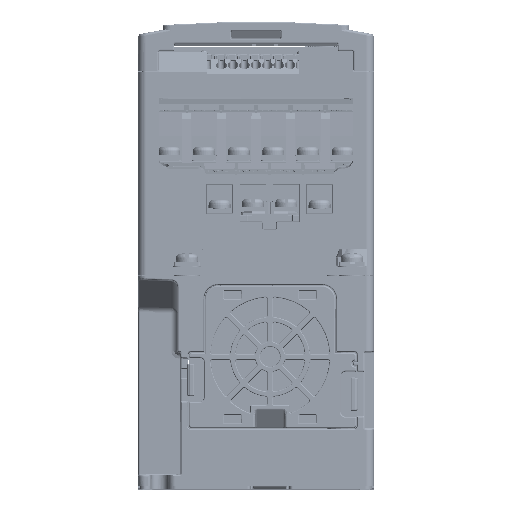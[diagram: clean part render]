
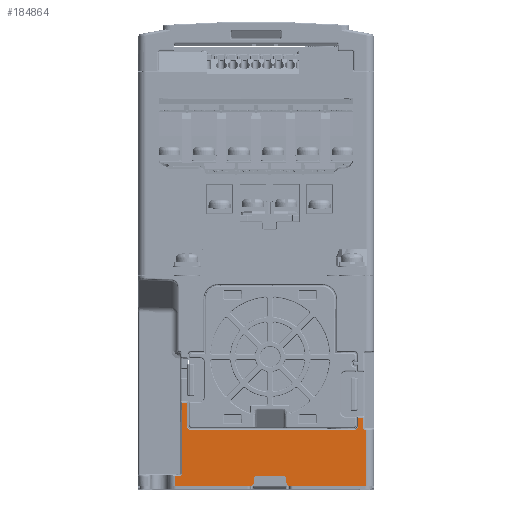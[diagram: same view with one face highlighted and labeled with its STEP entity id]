
A CAD part, top view. The second image highlights one B-rep face of the part: STEP entity #184864.
In plain terms, the highlighted planar face has unit normal (0, 0, 1).
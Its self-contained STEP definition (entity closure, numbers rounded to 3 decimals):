
#171471=CARTESIAN_POINT('',(-1.7,-52.4,71.));
#171472=DIRECTION('',(0.,0.,-1.));
#171473=DIRECTION('',(1.,0.,0.));
#171474=AXIS2_PLACEMENT_3D('',#171471,#171472,#171473);
#171476=DIRECTION('',(-1.,0.,0.));
#171477=VECTOR('',#171476,23.115);
#171478=CARTESIAN_POINT('',(-1.7,-53.4,71.));
#171479=LINE('',#171478,#171477);
#171480=CARTESIAN_POINT('',(-23.3,-49.588,71.));
#171481=DIRECTION('',(0.,0.,1.));
#171482=DIRECTION('',(0.017,-1.,0.));
#171483=AXIS2_PLACEMENT_3D('',#171480,#171481,#171482);
#171485=CARTESIAN_POINT('',(-21.174,-35.024,
71.));
#171486=CARTESIAN_POINT('',(-21.174,-35.165,
71.));
#171487=CARTESIAN_POINT('',(-21.13,-35.432,
71.));
#171488=CARTESIAN_POINT('',(-20.942,-35.802,
71.));
#171489=CARTESIAN_POINT('',(-20.652,-36.092,
71.));
#171490=CARTESIAN_POINT('',(-20.282,-36.28,
71.));
#171491=CARTESIAN_POINT('',(-20.015,-36.324,
71.));
#171492=CARTESIAN_POINT('',(-19.874,-36.324,
71.));
#171494=CARTESIAN_POINT('',(29.974,-36.324,
71.));
#171495=CARTESIAN_POINT('',(30.115,-36.324,
71.));
#171496=CARTESIAN_POINT('',(30.382,-36.28,
71.));
#171497=CARTESIAN_POINT('',(30.752,-36.092,
71.));
#171498=CARTESIAN_POINT('',(31.042,-35.802,
71.));
#171499=CARTESIAN_POINT('',(31.23,-35.432,
71.));
#171500=CARTESIAN_POINT('',(31.274,-35.165,
71.));
#171501=CARTESIAN_POINT('',(31.274,-35.024,
71.));
#171503=DIRECTION('',(1.,-0.017,0.));
#171504=VECTOR('',#171503,1.526);
#171505=CARTESIAN_POINT('',(31.274,-32.507,71.));
#171506=LINE('',#171505,#171504);
#171507=CARTESIAN_POINT('',(32.8,-35.644,71.));
#171508=CARTESIAN_POINT('',(32.8,-35.723,71.));
#171509=CARTESIAN_POINT('',(32.828,-35.87,
71.));
#171510=CARTESIAN_POINT('',(32.962,-36.079,
71.));
#171511=CARTESIAN_POINT('',(33.169,-36.214,
71.));
#171512=CARTESIAN_POINT('',(33.312,-36.244,
71.));
#171513=CARTESIAN_POINT('',(33.391,-36.245,
71.));
#171515=DIRECTION('',(-1.,0.,0.));
#171516=VECTOR('',#171515,23.2);
#171517=CARTESIAN_POINT('',(33.5,-53.4,71.));
#171518=LINE('',#171517,#171516);
#171519=CARTESIAN_POINT('',(10.3,-52.4,71.));
#171520=DIRECTION('',(0.,0.,-1.));
#171521=DIRECTION('',(0.,-1.,0.));
#171522=AXIS2_PLACEMENT_3D('',#171519,#171520,#171521);
#171524=CARTESIAN_POINT('',(8.3,-51.4,71.));
#171525=DIRECTION('',(0.,0.,1.));
#171526=DIRECTION('',(1.,0.,0.));
#171527=AXIS2_PLACEMENT_3D('',#171524,#171525,#171526);
#171529=CARTESIAN_POINT('',(0.3,-51.4,71.));
#171530=DIRECTION('',(0.,0.,1.));
#171531=DIRECTION('',(0.,1.,0.));
#171532=AXIS2_PLACEMENT_3D('',#171529,#171530,#171531);
#171534=DIRECTION('',(0.,-1.,0.));
#171535=VECTOR('',#171534,1.);
#171536=CARTESIAN_POINT('',(-0.7,-51.4,71.));
#171537=LINE('',#171536,#171535);
#171558=DIRECTION('',(1.,0.,0.));
#171559=VECTOR('',#171558,8.);
#171560=CARTESIAN_POINT('',(0.3,-50.4,71.));
#171561=LINE('',#171560,#171559);
#171570=DIRECTION('',(0.,-1.,0.));
#171571=VECTOR('',#171570,1.);
#171572=CARTESIAN_POINT('',(9.3,-51.4,71.));
#171573=LINE('',#171572,#171571);
#171737=DIRECTION('',(0.,1.,0.));
#171738=VECTOR('',#171737,17.154);
#171739=CARTESIAN_POINT('',(33.5,-53.4,71.));
#171740=LINE('',#171739,#171738);
#171755=DIRECTION('',(-1.,0.008,0.));
#171756=VECTOR('',#171755,0.109);
#171757=CARTESIAN_POINT('',(33.5,-36.246,
71.));
#171758=LINE('',#171757,#171756);
#172088=DIRECTION('',(0.,-1.,0.));
#172089=VECTOR('',#172088,2.517);
#172090=CARTESIAN_POINT('',(31.274,-32.507,71.));
#172091=LINE('',#172090,#172089);
#172126=DIRECTION('',(0.,1.,0.));
#172127=VECTOR('',#172126,3.11);
#172128=CARTESIAN_POINT('',(32.8,-35.644,71.));
#172129=LINE('',#172128,#172127);
#173561=DIRECTION('',(0.,-1.,0.));
#173562=VECTOR('',#173561,2.986);
#173563=CARTESIAN_POINT('',(-24.815,-50.414,71.));
#173564=LINE('',#173563,#173562);
#174181=DIRECTION('',(-1.,-0.017,0.));
#174182=VECTOR('',#174181,1.326);
#174183=CARTESIAN_POINT('',(-21.174,-27.951,71.));
#174184=LINE('',#174183,#174182);
#174189=DIRECTION('',(0.,1.,0.));
#174190=VECTOR('',#174189,7.073);
#174191=CARTESIAN_POINT('',(-21.174,-35.024,
71.));
#174192=LINE('',#174191,#174190);
#174211=DIRECTION('',(-1.,0.,0.));
#174212=VECTOR('',#174211,49.848);
#174213=CARTESIAN_POINT('',(29.974,-36.324,
71.));
#174214=LINE('',#174213,#174212);
#174237=DIRECTION('',(0.,-1.,0.));
#174238=VECTOR('',#174237,21.614);
#174239=CARTESIAN_POINT('',(-22.5,-27.974,
71.));
#174240=LINE('',#174239,#174238);
#174260=DIRECTION('',(-1.,-0.017,0.));
#174261=VECTOR('',#174260,1.529);
#174262=CARTESIAN_POINT('',(-23.286,-50.388,71.));
#174263=LINE('',#174262,#174261);
#180536=CARTESIAN_POINT('',(-24.815,-53.4,71.));
#180537=VERTEX_POINT('',#180536);
#180538=CARTESIAN_POINT('',(-1.7,-53.4,71.));
#180539=VERTEX_POINT('',#180538);
#180731=VERTEX_POINT('',#171494);
#180732=VERTEX_POINT('',#171501);
#180733=CARTESIAN_POINT('',(-0.7,-52.4,71.));
#180734=VERTEX_POINT('',#180733);
#180735=CARTESIAN_POINT('',(-24.815,-50.414,71.));
#180736=VERTEX_POINT('',#180735);
#180737=CARTESIAN_POINT('',(-23.286,-50.388,71.));
#180738=VERTEX_POINT('',#180737);
#180739=CARTESIAN_POINT('',(-22.5,-49.588,71.));
#180740=VERTEX_POINT('',#180739);
#180741=CARTESIAN_POINT('',(-22.5,-27.974,
71.));
#180742=VERTEX_POINT('',#180741);
#180743=CARTESIAN_POINT('',(-21.174,-27.951,71.));
#180744=VERTEX_POINT('',#180743);
#180745=CARTESIAN_POINT('',(-21.174,-35.024,
71.));
#180746=VERTEX_POINT('',#180745);
#180747=VERTEX_POINT('',#171492);
#180748=CARTESIAN_POINT('',(31.274,-32.507,71.));
#180749=VERTEX_POINT('',#180748);
#180750=CARTESIAN_POINT('',(32.8,-32.534,71.));
#180751=VERTEX_POINT('',#180750);
#180752=CARTESIAN_POINT('',(32.8,-35.644,71.));
#180753=VERTEX_POINT('',#180752);
#180754=VERTEX_POINT('',#171513);
#180755=CARTESIAN_POINT('',(33.5,-36.246,
71.));
#180756=VERTEX_POINT('',#180755);
#180757=CARTESIAN_POINT('',(33.5,-53.4,71.));
#180758=VERTEX_POINT('',#180757);
#180759=CARTESIAN_POINT('',(10.3,-53.4,71.));
#180760=VERTEX_POINT('',#180759);
#180761=CARTESIAN_POINT('',(9.3,-52.4,71.));
#180762=VERTEX_POINT('',#180761);
#180763=CARTESIAN_POINT('',(9.3,-51.4,71.));
#180764=VERTEX_POINT('',#180763);
#180765=CARTESIAN_POINT('',(8.3,-50.4,71.));
#180766=VERTEX_POINT('',#180765);
#180767=CARTESIAN_POINT('',(0.3,-50.4,71.));
#180768=VERTEX_POINT('',#180767);
#180769=CARTESIAN_POINT('',(-0.7,-51.4,71.));
#180770=VERTEX_POINT('',#180769);
#184811=CARTESIAN_POINT('',(-24.,12.1,71.));
#184812=DIRECTION('',(0.,0.,1.));
#184813=DIRECTION('',(1.,0.,0.));
#184814=AXIS2_PLACEMENT_3D('',#184811,#184812,#184813);
#184815=PLANE('',#184814);
#184817=ORIENTED_EDGE('',*,*,#184816,.T.);
#184818=ORIENTED_EDGE('',*,*,#183989,.T.);
#184820=ORIENTED_EDGE('',*,*,#184819,.F.);
#184822=ORIENTED_EDGE('',*,*,#184821,.F.);
#184824=ORIENTED_EDGE('',*,*,#184823,.T.);
#184826=ORIENTED_EDGE('',*,*,#184825,.F.);
#184828=ORIENTED_EDGE('',*,*,#184827,.F.);
#184830=ORIENTED_EDGE('',*,*,#184829,.F.);
#184832=ORIENTED_EDGE('',*,*,#184831,.T.);
#184834=ORIENTED_EDGE('',*,*,#184833,.F.);
#184835=ORIENTED_EDGE('',*,*,#184801,.T.);
#184837=ORIENTED_EDGE('',*,*,#184836,.F.);
#184839=ORIENTED_EDGE('',*,*,#184838,.T.);
#184841=ORIENTED_EDGE('',*,*,#184840,.F.);
#184843=ORIENTED_EDGE('',*,*,#184842,.T.);
#184845=ORIENTED_EDGE('',*,*,#184844,.F.);
#184847=ORIENTED_EDGE('',*,*,#184846,.F.);
#184849=ORIENTED_EDGE('',*,*,#184848,.T.);
#184851=ORIENTED_EDGE('',*,*,#184850,.T.);
#184853=ORIENTED_EDGE('',*,*,#184852,.F.);
#184855=ORIENTED_EDGE('',*,*,#184854,.T.);
#184857=ORIENTED_EDGE('',*,*,#184856,.F.);
#184859=ORIENTED_EDGE('',*,*,#184858,.T.);
#184861=ORIENTED_EDGE('',*,*,#184860,.T.);
#184862=EDGE_LOOP('',(#184817,#184818,#184820,#184822,#184824,#184826,#184828,
#184830,#184832,#184834,#184835,#184837,#184839,#184841,#184843,#184845,#184847,
#184849,#184851,#184853,#184855,#184857,#184859,#184861));
#184863=FACE_OUTER_BOUND('',#184862,.F.);
#171475=CIRCLE('',#171474,1.);
#171484=CIRCLE('',#171483,0.8);
#171493=B_SPLINE_CURVE_WITH_KNOTS('',3,(#171485,#171486,#171487,#171488,#171489,
#171490,#171491,#171492),.UNSPECIFIED.,.F.,.F.,(4,1,1,1,1,4),(0.,0.2,0.4,
0.6,0.8,1.),.UNSPECIFIED.);
#171502=B_SPLINE_CURVE_WITH_KNOTS('',3,(#171494,#171495,#171496,#171497,#171498,
#171499,#171500,#171501),.UNSPECIFIED.,.F.,.F.,(4,1,1,1,1,4),(0.,0.2,0.4,
0.6,0.8,1.),.UNSPECIFIED.);
#171514=B_SPLINE_CURVE_WITH_KNOTS('',3,(#171507,#171508,#171509,#171510,#171511,
#171512,#171513),.UNSPECIFIED.,.F.,.F.,(4,1,1,1,4),(0.,0.25,0.5,0.75,
1.),.UNSPECIFIED.);
#171523=CIRCLE('',#171522,1.);
#171528=CIRCLE('',#171527,1.);
#171533=CIRCLE('',#171532,1.);
#183989=EDGE_CURVE('',#180539,#180537,#171479,.T.);
#184801=EDGE_CURVE('',#180731,#180732,#171502,.T.);
#184816=EDGE_CURVE('',#180734,#180539,#171475,.T.);
#184819=EDGE_CURVE('',#180736,#180537,#173564,.T.);
#184821=EDGE_CURVE('',#180738,#180736,#174263,.T.);
#184823=EDGE_CURVE('',#180738,#180740,#171484,.T.);
#184825=EDGE_CURVE('',#180742,#180740,#174240,.T.);
#184827=EDGE_CURVE('',#180744,#180742,#174184,.T.);
#184829=EDGE_CURVE('',#180746,#180744,#174192,.T.);
#184831=EDGE_CURVE('',#180746,#180747,#171493,.T.);
#184833=EDGE_CURVE('',#180731,#180747,#174214,.T.);
#184836=EDGE_CURVE('',#180749,#180732,#172091,.T.);
#184838=EDGE_CURVE('',#180749,#180751,#171506,.T.);
#184840=EDGE_CURVE('',#180753,#180751,#172129,.T.);
#184842=EDGE_CURVE('',#180753,#180754,#171514,.T.);
#184844=EDGE_CURVE('',#180756,#180754,#171758,.T.);
#184846=EDGE_CURVE('',#180758,#180756,#171740,.T.);
#184848=EDGE_CURVE('',#180758,#180760,#171518,.T.);
#184850=EDGE_CURVE('',#180760,#180762,#171523,.T.);
#184852=EDGE_CURVE('',#180764,#180762,#171573,.T.);
#184854=EDGE_CURVE('',#180764,#180766,#171528,.T.);
#184856=EDGE_CURVE('',#180768,#180766,#171561,.T.);
#184858=EDGE_CURVE('',#180768,#180770,#171533,.T.);
#184860=EDGE_CURVE('',#180770,#180734,#171537,.T.);
#184864=ADVANCED_FACE('',(#184863),#184815,.T.);
